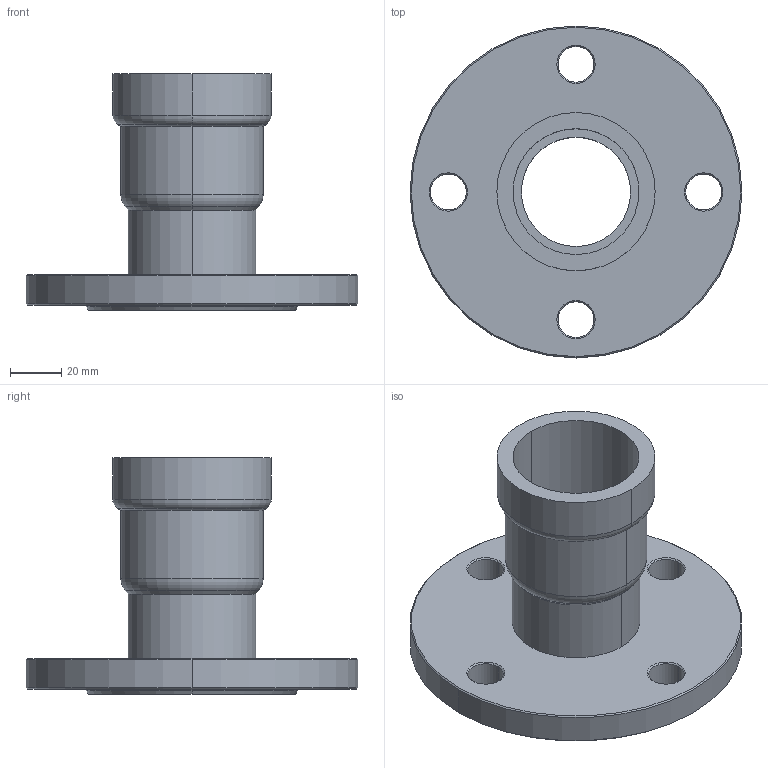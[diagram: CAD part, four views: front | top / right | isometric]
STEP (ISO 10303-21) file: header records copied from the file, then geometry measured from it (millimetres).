
FILE_DESCRIPTION(('Creo Elements/Direct Modeling STEP Export'),'2;1');
FILE_NAME('C9426_1-1-2.stp','2020-07-17T11:14:52',(''),(''),'PTC Creo Elements/Direct Modeling STEP processor for AP214 (Solid Model)','PTC Creo Elements/Direct Modeling 19.0C 15-Aug-2015 (C) Parametric Technology GmbH','');
FILE_SCHEMA(('AUTOMOTIVE_DESIGN { 1 0 10303 214 1 1 1 1 }'));
Length unit declared in the file: millimetre
Products named in the file (2): C9426_1-1-2
Assembly tree (1 placements, depth 2):
  C9426_1-1-2
    C9426_1-1-2
Bounding box: 130 x 130 x 92.68 mm (x, y, z)
Volume: 195067.5 mm3; surface area: 58217.4 mm2
Topology: 1 solids, 1 shells, 90 faces, 188 edges, 114 vertices
Faces by surface type: torus 28, cone 26, cylinder 20, plane 16
Entity records: 2167 total; most frequent: DIRECTION 378, ORIENTED_EDGE 376, CARTESIAN_POINT 326, EDGE_CURVE 188, AXIS2_PLACEMENT_3D 166, VERTEX_POINT 114, EDGE_LOOP 114, FACE_OUTER_BOUND 90
